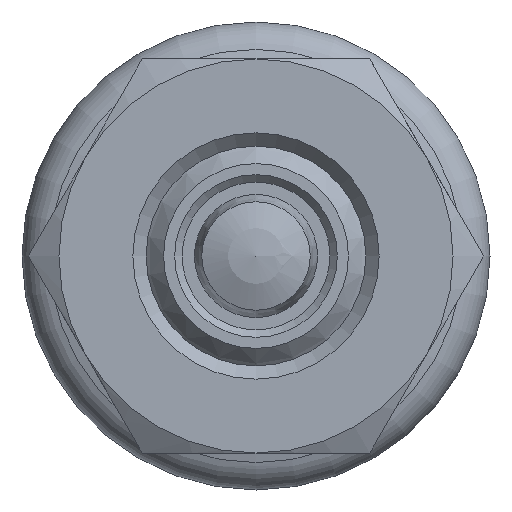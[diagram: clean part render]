
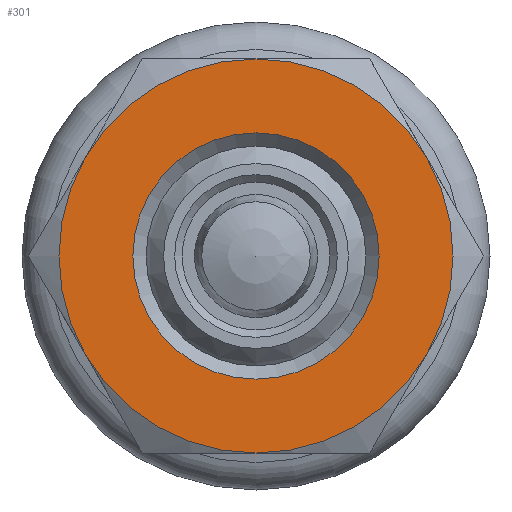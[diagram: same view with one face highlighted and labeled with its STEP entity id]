
A CAD part, front view. The second image highlights one B-rep face of the part: STEP entity #301.
In plain terms, the highlighted planar face has unit normal (0, -1, 0).
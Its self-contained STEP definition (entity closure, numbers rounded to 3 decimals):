
#301 = ADVANCED_FACE( '', ( #458, #459 ), #460, .F. );
#458 = FACE_BOUND( '', #652, .T. );
#459 = FACE_OUTER_BOUND( '', #653, .T. );
#460 = PLANE( '', #654 );
#652 = EDGE_LOOP( '', ( #1007 ) );
#653 = EDGE_LOOP( '', ( #1008, #1009, #1010, #1011, #1012, #1013 ) );
#654 = AXIS2_PLACEMENT_3D( '', #1014, #1015, #1016 );
#1007 = ORIENTED_EDGE( '', *, *, #1120, .F. );
#1008 = ORIENTED_EDGE( '', *, *, #1123, .T. );
#1009 = ORIENTED_EDGE( '', *, *, #1124, .T. );
#1010 = ORIENTED_EDGE( '', *, *, #1090, .T. );
#1011 = ORIENTED_EDGE( '', *, *, #1115, .T. );
#1012 = ORIENTED_EDGE( '', *, *, #1116, .T. );
#1013 = ORIENTED_EDGE( '', *, *, #1117, .T. );
#1014 = CARTESIAN_POINT( '', ( 8., 0., 0. ) );
#1015 = DIRECTION( '', ( 0., 1., 0. ) );
#1016 = DIRECTION( '', ( 0., 0., 1. ) );
#1090 = EDGE_CURVE( '', #1236, #1237, #1238, .T. );
#1115 = EDGE_CURVE( '', #1237, #1218, #1275, .T. );
#1116 = EDGE_CURVE( '', #1218, #1230, #1276, .T. );
#1117 = EDGE_CURVE( '', #1230, #1277, #1278, .T. );
#1120 = EDGE_CURVE( '', #1281, #1281, #1282, .T. );
#1123 = EDGE_CURVE( '', #1277, #1245, #1287, .T. );
#1124 = EDGE_CURVE( '', #1245, #1236, #1288, .T. );
#1218 = VERTEX_POINT( '', #1497 );
#1230 = VERTEX_POINT( '', #1531 );
#1236 = VERTEX_POINT( '', #1561 );
#1237 = VERTEX_POINT( '', #1562 );
#1238 = CIRCLE( '', #1563, 8. );
#1245 = VERTEX_POINT( '', #1583 );
#1275 = CIRCLE( '', #1683, 8. );
#1276 = CIRCLE( '', #1684, 8. );
#1277 = VERTEX_POINT( '', #1685 );
#1278 = CIRCLE( '', #1686, 8. );
#1281 = VERTEX_POINT( '', #1701 );
#1282 = CIRCLE( '', #1702, 5. );
#1287 = CIRCLE( '', #1707, 8. );
#1288 = CIRCLE( '', #1708, 8. );
#1497 = CARTESIAN_POINT( '', ( -8., 0., 0. ) );
#1531 = CARTESIAN_POINT( '', ( -4., 0., -6.928 ) );
#1561 = CARTESIAN_POINT( '', ( 4., 0., 6.928 ) );
#1562 = CARTESIAN_POINT( '', ( -4., 0., 6.928 ) );
#1563 = AXIS2_PLACEMENT_3D( '', #1808, #1809, #1810 );
#1583 = CARTESIAN_POINT( '', ( 8., 0., 0. ) );
#1683 = AXIS2_PLACEMENT_3D( '', #1835, #1836, #1837 );
#1684 = AXIS2_PLACEMENT_3D( '', #1838, #1839, #1840 );
#1685 = CARTESIAN_POINT( '', ( 4., 0., -6.928 ) );
#1686 = AXIS2_PLACEMENT_3D( '', #1841, #1842, #1843 );
#1701 = CARTESIAN_POINT( '', ( 0., 0., -5. ) );
#1702 = AXIS2_PLACEMENT_3D( '', #1844, #1845, #1846 );
#1707 = AXIS2_PLACEMENT_3D( '', #1853, #1854, #1855 );
#1708 = AXIS2_PLACEMENT_3D( '', #1856, #1857, #1858 );
#1808 = CARTESIAN_POINT( '', ( 0., 0., 0. ) );
#1809 = DIRECTION( '', ( 0., -1., 0. ) );
#1810 = DIRECTION( '', ( 0., 0., -1. ) );
#1835 = CARTESIAN_POINT( '', ( 0., 0., 0. ) );
#1836 = DIRECTION( '', ( 0., -1., 0. ) );
#1837 = DIRECTION( '', ( 0., 0., -1. ) );
#1838 = CARTESIAN_POINT( '', ( 0., 0., 0. ) );
#1839 = DIRECTION( '', ( 0., -1., 0. ) );
#1840 = DIRECTION( '', ( 0., 0., -1. ) );
#1841 = CARTESIAN_POINT( '', ( 0., 0., 0. ) );
#1842 = DIRECTION( '', ( 0., -1., 0. ) );
#1843 = DIRECTION( '', ( 0., 0., -1. ) );
#1844 = CARTESIAN_POINT( '', ( 0., 0., 0. ) );
#1845 = DIRECTION( '', ( 0., -1., 0. ) );
#1846 = DIRECTION( '', ( 0., 0., -1. ) );
#1853 = CARTESIAN_POINT( '', ( 0., 0., 0. ) );
#1854 = DIRECTION( '', ( 0., -1., 0. ) );
#1855 = DIRECTION( '', ( 0., 0., -1. ) );
#1856 = CARTESIAN_POINT( '', ( 0., 0., 0. ) );
#1857 = DIRECTION( '', ( 0., -1., 0. ) );
#1858 = DIRECTION( '', ( 0., 0., -1. ) );
